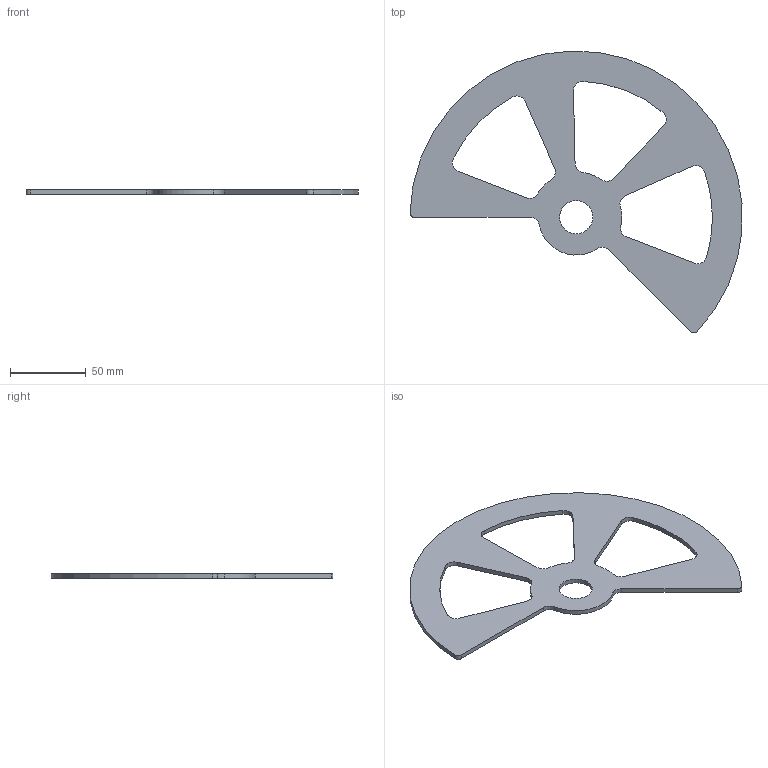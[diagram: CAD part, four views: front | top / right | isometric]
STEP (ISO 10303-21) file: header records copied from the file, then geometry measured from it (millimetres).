
FILE_DESCRIPTION (( 'STEP AP214' ), '1' );
FILE_NAME ('Meßrad.STEP', '2016-12-28T08:43:33', ( '' ), ( '' ), 'SwSTEP 2.0', 'SolidWorks 2016', '' );
FILE_SCHEMA (( 'AUTOMOTIVE_DESIGN' ));
Length unit declared in the file: millimetre
Products named in the file (1): Meßrad
Bounding box: 219.57 x 186.47 x 3 mm (x, y, z)
Volume: 47178.9 mm3; surface area: 35462.6 mm2
Topology: 1 solids, 1 shells, 41 faces, 117 edges, 78 vertices
Faces by surface type: cylinder 31, plane 10
Entity records: 1423 total; most frequent: DIRECTION 263, CARTESIAN_POINT 237, ORIENTED_EDGE 234, EDGE_CURVE 117, AXIS2_PLACEMENT_3D 104, VERTEX_POINT 78, CIRCLE 62, LINE 55
